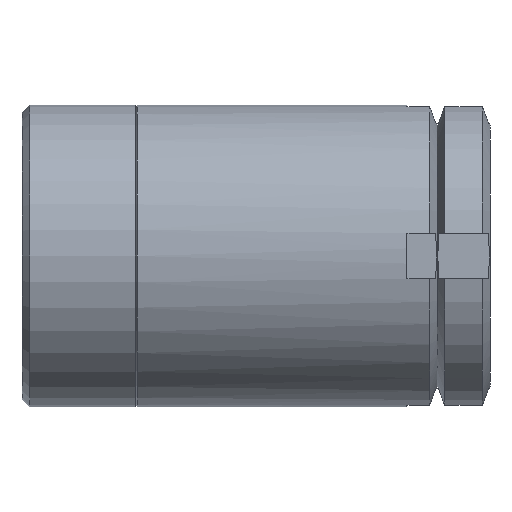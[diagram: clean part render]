
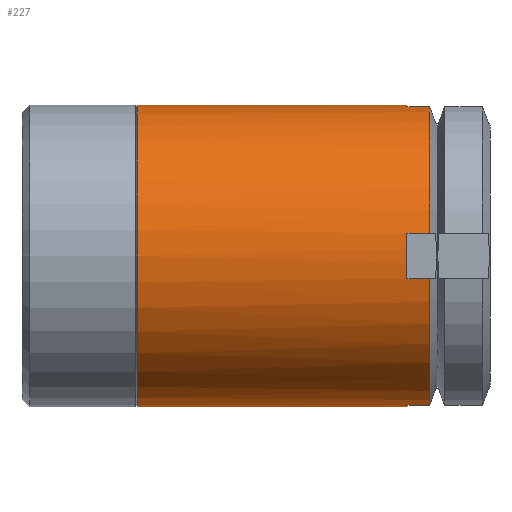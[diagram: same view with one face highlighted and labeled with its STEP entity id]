
A CAD part, front view. The second image highlights one B-rep face of the part: STEP entity #227.
In plain terms, the highlighted cylindrical face has radius 20 mm (diameter 40 mm), a full revolution.
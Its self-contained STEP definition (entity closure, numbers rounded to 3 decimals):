
#227 = ADVANCED_FACE( '', ( #342, #343 ), #344, .T. );
#342 = FACE_OUTER_BOUND( '', #527, .T. );
#343 = FACE_OUTER_BOUND( '', #528, .T. );
#344 = CYLINDRICAL_SURFACE( '', #529, 20. );
#527 = EDGE_LOOP( '', ( #756 ) );
#528 = EDGE_LOOP( '', ( #757, #758, #759, #760, #761, #762, #763, #764, #765, #766, #767, #768, #769, #770, #771, #772 ) );
#529 = AXIS2_PLACEMENT_3D( '', #773, #774, #775 );
#756 = ORIENTED_EDGE( '', *, *, #1157, .F. );
#757 = ORIENTED_EDGE( '', *, *, #1158, .F. );
#758 = ORIENTED_EDGE( '', *, *, #1159, .T. );
#759 = ORIENTED_EDGE( '', *, *, #1160, .T. );
#760 = ORIENTED_EDGE( '', *, *, #1161, .F. );
#761 = ORIENTED_EDGE( '', *, *, #1162, .F. );
#762 = ORIENTED_EDGE( '', *, *, #1163, .T. );
#763 = ORIENTED_EDGE( '', *, *, #1164, .T. );
#764 = ORIENTED_EDGE( '', *, *, #1165, .F. );
#765 = ORIENTED_EDGE( '', *, *, #1166, .F. );
#766 = ORIENTED_EDGE( '', *, *, #1143, .T. );
#767 = ORIENTED_EDGE( '', *, *, #1167, .T. );
#768 = ORIENTED_EDGE( '', *, *, #1168, .F. );
#769 = ORIENTED_EDGE( '', *, *, #1169, .F. );
#770 = ORIENTED_EDGE( '', *, *, #1170, .T. );
#771 = ORIENTED_EDGE( '', *, *, #1171, .T. );
#772 = ORIENTED_EDGE( '', *, *, #1172, .F. );
#773 = CARTESIAN_POINT( '', ( 0., 5.577, 0. ) );
#774 = DIRECTION( '', ( 0., 1., 0. ) );
#775 = DIRECTION( '', ( 0., 0., -1. ) );
#1143 = EDGE_CURVE( '', #1288, #1286, #1289, .T. );
#1157 = EDGE_CURVE( '', #1315, #1315, #1316, .T. );
#1158 = EDGE_CURVE( '', #1317, #1318, #1319, .T. );
#1159 = EDGE_CURVE( '', #1317, #1320, #1321, .T. );
#1160 = EDGE_CURVE( '', #1320, #1322, #1323, .T. );
#1161 = EDGE_CURVE( '', #1324, #1322, #1325, .T. );
#1162 = EDGE_CURVE( '', #1326, #1324, #1327, .T. );
#1163 = EDGE_CURVE( '', #1326, #1328, #1329, .T. );
#1164 = EDGE_CURVE( '', #1328, #1330, #1331, .T. );
#1165 = EDGE_CURVE( '', #1332, #1330, #1333, .T. );
#1166 = EDGE_CURVE( '', #1288, #1332, #1334, .T. );
#1167 = EDGE_CURVE( '', #1286, #1335, #1336, .T. );
#1168 = EDGE_CURVE( '', #1337, #1335, #1338, .T. );
#1169 = EDGE_CURVE( '', #1339, #1337, #1340, .T. );
#1170 = EDGE_CURVE( '', #1339, #1341, #1342, .T. );
#1171 = EDGE_CURVE( '', #1341, #1343, #1344, .T. );
#1172 = EDGE_CURVE( '', #1318, #1343, #1345, .T. );
#1286 = VERTEX_POINT( '', #1522 );
#1288 = VERTEX_POINT( '', #1530 );
#1289 = LINE( '', #1531, #1532 );
#1315 = VERTEX_POINT( '', #1560 );
#1316 = CIRCLE( '', #1561, 20. );
#1317 = VERTEX_POINT( '', #1562 );
#1318 = VERTEX_POINT( '', #1563 );
#1319 = CIRCLE( '', #1564, 20. );
#1320 = VERTEX_POINT( '', #1565 );
#1321 = LINE( '', #1566, #1567 );
#1322 = VERTEX_POINT( '', #1568 );
#1323 = CIRCLE( '', #1569, 20. );
#1324 = VERTEX_POINT( '', #1570 );
#1325 = LINE( '', #1571, #1572 );
#1326 = VERTEX_POINT( '', #1573 );
#1327 = CIRCLE( '', #1574, 20. );
#1328 = VERTEX_POINT( '', #1575 );
#1329 = LINE( '', #1576, #1577 );
#1330 = VERTEX_POINT( '', #1578 );
#1331 = CIRCLE( '', #1579, 20. );
#1332 = VERTEX_POINT( '', #1580 );
#1333 = LINE( '', #1581, #1582 );
#1334 = CIRCLE( '', #1583, 20. );
#1335 = VERTEX_POINT( '', #1584 );
#1336 = CIRCLE( '', #1585, 20. );
#1337 = VERTEX_POINT( '', #1586 );
#1338 = LINE( '', #1587, #1588 );
#1339 = VERTEX_POINT( '', #1589 );
#1340 = CIRCLE( '', #1590, 20. );
#1341 = VERTEX_POINT( '', #1591 );
#1342 = LINE( '', #1592, #1593 );
#1343 = VERTEX_POINT( '', #1594 );
#1344 = CIRCLE( '', #1595, 20. );
#1345 = LINE( '', #1596, #1597 );
#1522 = CARTESIAN_POINT( '', ( -19.774, 54., -3. ) );
#1530 = CARTESIAN_POINT( '', ( -19.774, 51., -3. ) );
#1531 = CARTESIAN_POINT( '', ( -19.774, 51., -3. ) );
#1532 = VECTOR( '', #1978, 1000. );
#1560 = CARTESIAN_POINT( '', ( 0., 15.264, -20. ) );
#1561 = AXIS2_PLACEMENT_3D( '', #2014, #2015, #2016 );
#1562 = CARTESIAN_POINT( '', ( 19.774, 51., 3. ) );
#1563 = CARTESIAN_POINT( '', ( 19.774, 51., -3. ) );
#1564 = AXIS2_PLACEMENT_3D( '', #2017, #2018, #2019 );
#1565 = CARTESIAN_POINT( '', ( 19.774, 54., 3. ) );
#1566 = CARTESIAN_POINT( '', ( 19.774, 51., 3. ) );
#1567 = VECTOR( '', #2020, 1000. );
#1568 = CARTESIAN_POINT( '', ( 3., 54., 19.774 ) );
#1569 = AXIS2_PLACEMENT_3D( '', #2021, #2022, #2023 );
#1570 = CARTESIAN_POINT( '', ( 3., 51., 19.774 ) );
#1571 = CARTESIAN_POINT( '', ( 3., 51., 19.774 ) );
#1572 = VECTOR( '', #2024, 1000. );
#1573 = CARTESIAN_POINT( '', ( -3., 51., 19.774 ) );
#1574 = AXIS2_PLACEMENT_3D( '', #2025, #2026, #2027 );
#1575 = CARTESIAN_POINT( '', ( -3., 54., 19.774 ) );
#1576 = CARTESIAN_POINT( '', ( -3., 51., 19.774 ) );
#1577 = VECTOR( '', #2028, 1000. );
#1578 = CARTESIAN_POINT( '', ( -19.774, 54., 3. ) );
#1579 = AXIS2_PLACEMENT_3D( '', #2029, #2030, #2031 );
#1580 = CARTESIAN_POINT( '', ( -19.774, 51., 3. ) );
#1581 = CARTESIAN_POINT( '', ( -19.774, 51., 3. ) );
#1582 = VECTOR( '', #2032, 1000. );
#1583 = AXIS2_PLACEMENT_3D( '', #2033, #2034, #2035 );
#1584 = CARTESIAN_POINT( '', ( -3., 54., -19.774 ) );
#1585 = AXIS2_PLACEMENT_3D( '', #2036, #2037, #2038 );
#1586 = CARTESIAN_POINT( '', ( -3., 51., -19.774 ) );
#1587 = CARTESIAN_POINT( '', ( -3., 51., -19.774 ) );
#1588 = VECTOR( '', #2039, 1000. );
#1589 = CARTESIAN_POINT( '', ( 3., 51., -19.774 ) );
#1590 = AXIS2_PLACEMENT_3D( '', #2040, #2041, #2042 );
#1591 = CARTESIAN_POINT( '', ( 3., 54., -19.774 ) );
#1592 = CARTESIAN_POINT( '', ( 3., 51., -19.774 ) );
#1593 = VECTOR( '', #2043, 1000. );
#1594 = CARTESIAN_POINT( '', ( 19.774, 54., -3. ) );
#1595 = AXIS2_PLACEMENT_3D( '', #2044, #2045, #2046 );
#1596 = CARTESIAN_POINT( '', ( 19.774, 51., -3. ) );
#1597 = VECTOR( '', #2047, 1000. );
#1978 = DIRECTION( '', ( 0., 1., 0. ) );
#2014 = CARTESIAN_POINT( '', ( 0., 15.264, 0. ) );
#2015 = DIRECTION( '', ( 0., -1., 0. ) );
#2016 = DIRECTION( '', ( 0., 0., -1. ) );
#2017 = CARTESIAN_POINT( '', ( 0., 51., 0. ) );
#2018 = DIRECTION( '', ( 0., 1., 0. ) );
#2019 = DIRECTION( '', ( 0., 0., 1. ) );
#2020 = DIRECTION( '', ( 0., 1., 0. ) );
#2021 = CARTESIAN_POINT( '', ( 0., 54., 0. ) );
#2022 = DIRECTION( '', ( 0., -1., 0. ) );
#2023 = DIRECTION( '', ( 0., 0., -1. ) );
#2024 = DIRECTION( '', ( 0., 1., 0. ) );
#2025 = CARTESIAN_POINT( '', ( 0., 51., 0. ) );
#2026 = DIRECTION( '', ( 0., 1., 0. ) );
#2027 = DIRECTION( '', ( 0., 0., 1. ) );
#2028 = DIRECTION( '', ( 0., 1., 0. ) );
#2029 = CARTESIAN_POINT( '', ( 0., 54., 0. ) );
#2030 = DIRECTION( '', ( 0., -1., 0. ) );
#2031 = DIRECTION( '', ( 0., 0., -1. ) );
#2032 = DIRECTION( '', ( 0., 1., 0. ) );
#2033 = CARTESIAN_POINT( '', ( 0., 51., 0. ) );
#2034 = DIRECTION( '', ( 0., 1., 0. ) );
#2035 = DIRECTION( '', ( 0., 0., 1. ) );
#2036 = CARTESIAN_POINT( '', ( 0., 54., 0. ) );
#2037 = DIRECTION( '', ( 0., -1., 0. ) );
#2038 = DIRECTION( '', ( 0., 0., -1. ) );
#2039 = DIRECTION( '', ( 0., 1., 0. ) );
#2040 = CARTESIAN_POINT( '', ( 0., 51., 0. ) );
#2041 = DIRECTION( '', ( 0., 1., 0. ) );
#2042 = DIRECTION( '', ( 0., 0., 1. ) );
#2043 = DIRECTION( '', ( 0., 1., 0. ) );
#2044 = CARTESIAN_POINT( '', ( 0., 54., 0. ) );
#2045 = DIRECTION( '', ( 0., -1., 0. ) );
#2046 = DIRECTION( '', ( 0., 0., -1. ) );
#2047 = DIRECTION( '', ( 0., 1., 0. ) );
